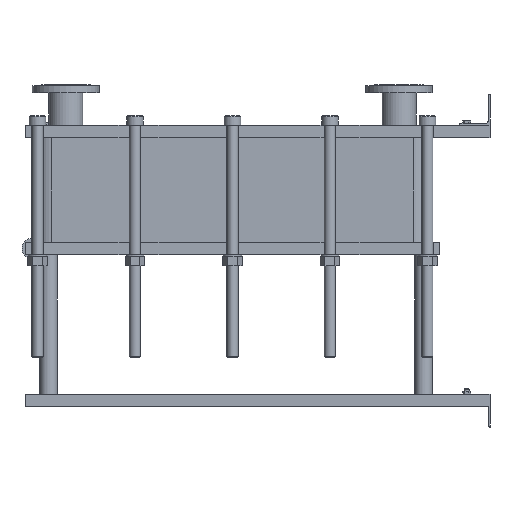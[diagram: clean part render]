
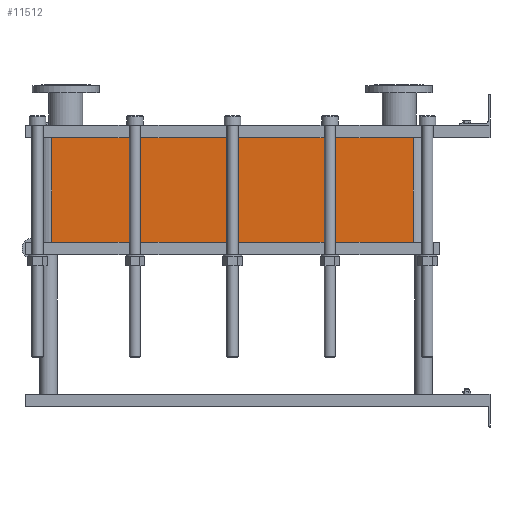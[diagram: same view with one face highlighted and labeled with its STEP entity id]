
A CAD part, left-side view. The second image highlights one B-rep face of the part: STEP entity #11512.
In plain terms, the highlighted planar face has unit normal (-1, 0, 0).
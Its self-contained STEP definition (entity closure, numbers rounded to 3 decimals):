
#1129=LINE('',#23232,#2102);
#1130=LINE('',#23236,#2103);
#1131=LINE('',#23238,#2104);
#1132=LINE('',#23239,#2105);
#2102=VECTOR('',#15887,10.);
#2103=VECTOR('',#15892,10.);
#2104=VECTOR('',#15893,10.);
#2105=VECTOR('',#15894,10.);
#3267=FACE_OUTER_BOUND('',#4093,.T.);
#4093=EDGE_LOOP('',(#10103,#10104,#10105,#10106));
#5642=VERTEX_POINT('',#23229);
#5643=VERTEX_POINT('',#23231);
#5644=VERTEX_POINT('',#23235);
#5645=VERTEX_POINT('',#23237);
#7159=EDGE_CURVE('',#5643,#5642,#1129,.T.);
#7161=EDGE_CURVE('',#5642,#5644,#1130,.T.);
#7162=EDGE_CURVE('',#5645,#5644,#1131,.T.);
#7163=EDGE_CURVE('',#5645,#5643,#1132,.T.);
#10103=ORIENTED_EDGE('',*,*,#7161,.T.);
#10104=ORIENTED_EDGE('',*,*,#7162,.F.);
#10105=ORIENTED_EDGE('',*,*,#7163,.T.);
#10106=ORIENTED_EDGE('',*,*,#7159,.T.);
#10857=PLANE('',#12751);
#11512=ADVANCED_FACE('',(#3267),#10857,.T.);
#12751=AXIS2_PLACEMENT_3D('',#23234,#15890,#15891);
#15887=DIRECTION('',(0.,0.,-1.));
#15890=DIRECTION('center_axis',(-1.,0.,0.));
#15891=DIRECTION('ref_axis',(0.,1.,0.));
#15892=DIRECTION('',(0.,-1.,0.));
#15893=DIRECTION('',(0.,0.,-1.));
#15894=DIRECTION('',(0.,1.,0.));
#23229=CARTESIAN_POINT('',(-200.,1414.,-338.1));
#23231=CARTESIAN_POINT('',(-200.,1414.,0.));
#23232=CARTESIAN_POINT('',(-200.,1414.,0.));
#23234=CARTESIAN_POINT('Origin',(-200.,248.,0.));
#23235=CARTESIAN_POINT('',(-200.,248.,-338.1));
#23236=CARTESIAN_POINT('',(-200.,539.5,-338.1));
#23237=CARTESIAN_POINT('',(-200.,248.,0.));
#23238=CARTESIAN_POINT('',(-200.,248.,0.));
#23239=CARTESIAN_POINT('',(-200.,248.,0.));
